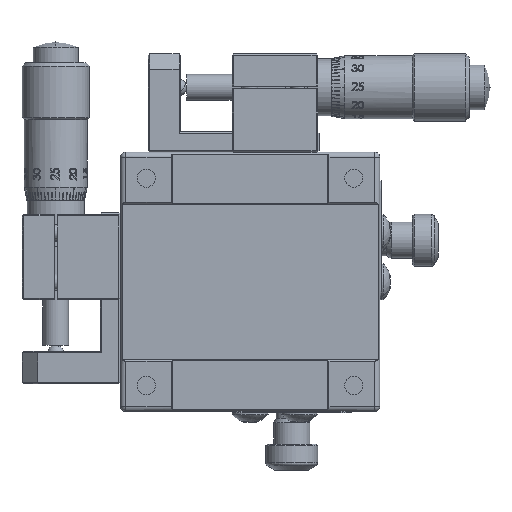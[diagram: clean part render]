
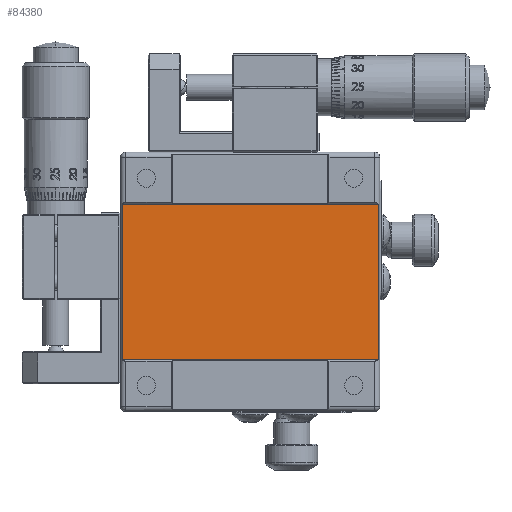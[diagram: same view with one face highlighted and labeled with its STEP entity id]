
A CAD part, front view. The second image highlights one B-rep face of the part: STEP entity #84380.
In plain terms, the highlighted planar face has unit normal (0, -1, 0).
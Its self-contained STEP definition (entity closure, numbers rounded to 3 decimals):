
#3721 = DIRECTION ( 'NONE',  ( -1., 0., 0. ) ) ;
#19391 = CARTESIAN_POINT ( 'NONE',  ( 25.38, -6.992, 15. ) ) ;
#25863 = EDGE_LOOP ( 'NONE', ( #63663, #127571, #202027, #47653 ) ) ;
#33863 = CARTESIAN_POINT ( 'NONE',  ( 25.38, -6.992, 15. ) ) ;
#35128 = DIRECTION ( 'NONE',  ( 0., 0., 1. ) ) ;
#40520 = EDGE_CURVE ( 'NONE', #196155, #89760, #65667, .T. ) ;
#46204 = DIRECTION ( 'NONE',  ( 0., 0., -1. ) ) ;
#47653 = ORIENTED_EDGE ( 'NONE', *, *, #130438, .T. ) ;
#52674 = CARTESIAN_POINT ( 'NONE',  ( 25.094, -6.992, 15. ) ) ;
#60272 = CARTESIAN_POINT ( 'NONE',  ( 25.094, -6.992, -15. ) ) ;
#63663 = ORIENTED_EDGE ( 'NONE', *, *, #86932, .F. ) ;
#65667 = LINE ( 'NONE', #60272, #148860 ) ;
#80127 = PLANE ( 'NONE',  #192747 ) ;
#84380 = ADVANCED_FACE ( 'NONE', ( #151714 ), #80127, .F. ) ;
#86932 = EDGE_CURVE ( 'NONE', #196155, #154964, #107043, .T. ) ;
#89760 = VERTEX_POINT ( 'NONE', #52674 ) ;
#102217 = VECTOR ( 'NONE', #3721, 1000. ) ;
#104891 = VECTOR ( 'NONE', #46204, 1000. ) ;
#106576 = VERTEX_POINT ( 'NONE', #116752 ) ;
#107043 = LINE ( 'NONE', #171621, #143704 ) ;
#107082 = LINE ( 'NONE', #33863, #102217 ) ;
#113030 = CARTESIAN_POINT ( 'NONE',  ( -24.334, -6.992, -15. ) ) ;
#116752 = CARTESIAN_POINT ( 'NONE',  ( -24.334, -6.992, 15. ) ) ;
#127571 = ORIENTED_EDGE ( 'NONE', *, *, #40520, .T. ) ;
#128721 = DIRECTION ( 'NONE',  ( 0., 1., 0. ) ) ;
#130438 = EDGE_CURVE ( 'NONE', #106576, #154964, #183242, .T. ) ;
#132542 = EDGE_CURVE ( 'NONE', #89760, #106576, #107082, .T. ) ;
#138218 = DIRECTION ( 'NONE',  ( 0., 0., 1. ) ) ;
#143704 = VECTOR ( 'NONE', #187429, 1000. ) ;
#148860 = VECTOR ( 'NONE', #138218, 1000. ) ;
#151714 = FACE_OUTER_BOUND ( 'NONE', #25863, .T. ) ;
#154964 = VERTEX_POINT ( 'NONE', #113030 ) ;
#161100 = CARTESIAN_POINT ( 'NONE',  ( 25.094, -6.992, -15. ) ) ;
#171621 = CARTESIAN_POINT ( 'NONE',  ( 25.38, -6.992, -15. ) ) ;
#183242 = LINE ( 'NONE', #202755, #104891 ) ;
#187429 = DIRECTION ( 'NONE',  ( -1., 0., 0. ) ) ;
#192747 = AXIS2_PLACEMENT_3D ( 'NONE', #19391, #128721, #35128 ) ;
#196155 = VERTEX_POINT ( 'NONE', #161100 ) ;
#202027 = ORIENTED_EDGE ( 'NONE', *, *, #132542, .T. ) ;
#202755 = CARTESIAN_POINT ( 'NONE',  ( -24.334, -6.992, 15. ) ) ;
